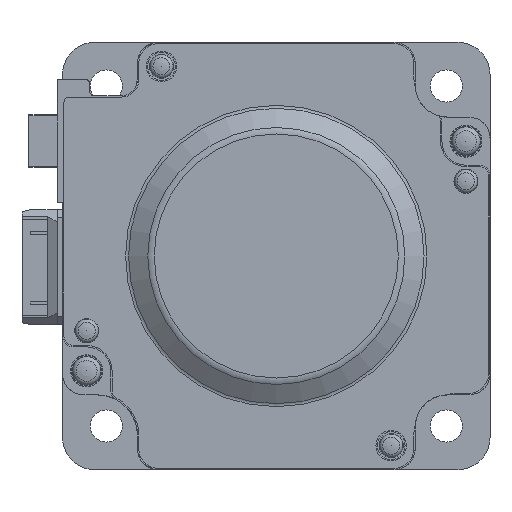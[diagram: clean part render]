
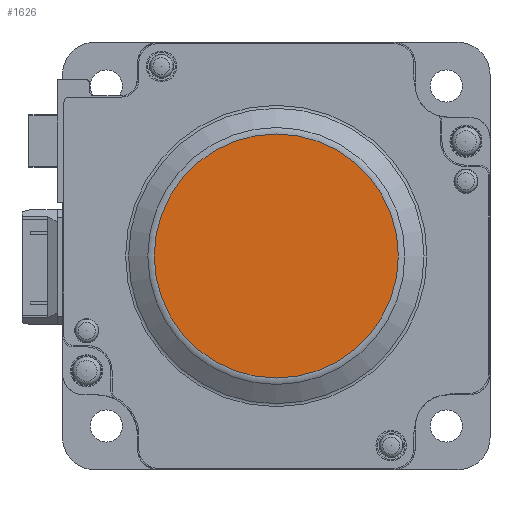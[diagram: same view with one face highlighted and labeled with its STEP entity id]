
A CAD part, left-side view. The second image highlights one B-rep face of the part: STEP entity #1626.
In plain terms, the highlighted planar face has unit normal (-1, 0, 0).
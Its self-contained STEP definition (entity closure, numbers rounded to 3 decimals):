
#1626 = ADVANCED_FACE( '', ( #3407 ), #3408, .F. );
#3407 = FACE_OUTER_BOUND( '', #5180, .T. );
#3408 = PLANE( '', #5181 );
#5180 = EDGE_LOOP( '', ( #9877 ) );
#5181 = AXIS2_PLACEMENT_3D( '', #9878, #9879, #9880 );
#9877 = ORIENTED_EDGE( '', *, *, #10598, .F. );
#9878 = CARTESIAN_POINT( '', ( -108.2, -22., 36. ) );
#9879 = DIRECTION( '', ( 1., 0., 0. ) );
#9880 = DIRECTION( '', ( 0., 0., -1. ) );
#10598 = EDGE_CURVE( '', #12917, #12917, #12918, .T. );
#12917 = VERTEX_POINT( '', #16089 );
#12918 = CIRCLE( '', #16090, 22.84 );
#16089 = CARTESIAN_POINT( '', ( -108.2, 0., -22.84 ) );
#16090 = AXIS2_PLACEMENT_3D( '', #18976, #18977, #18978 );
#18976 = CARTESIAN_POINT( '', ( -108.2, 0., 0. ) );
#18977 = DIRECTION( '', ( 1., 0., 0. ) );
#18978 = DIRECTION( '', ( 0., 0., -1. ) );
